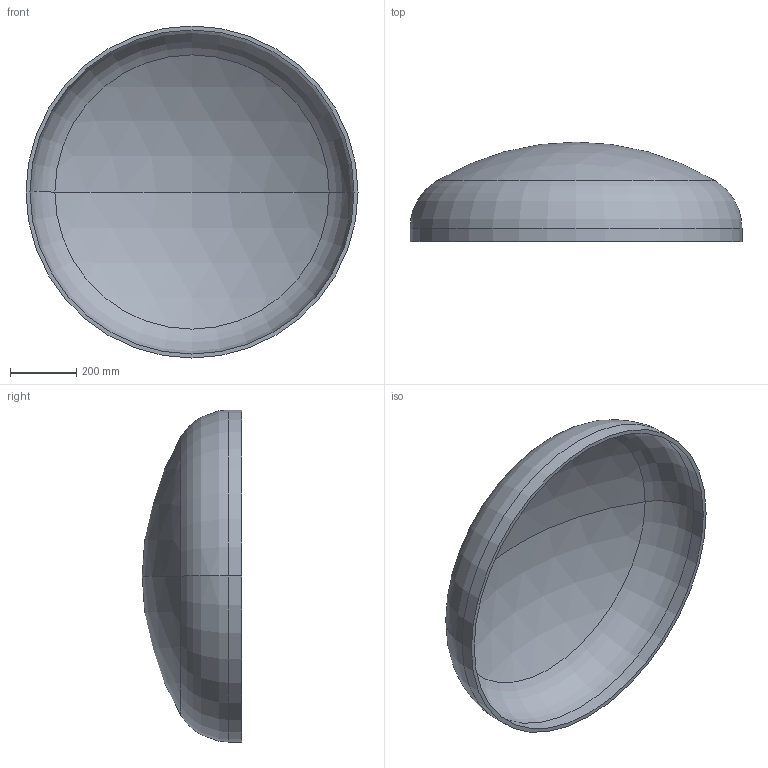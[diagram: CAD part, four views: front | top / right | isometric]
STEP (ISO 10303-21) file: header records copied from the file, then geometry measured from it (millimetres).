
FILE_DESCRIPTION (( 'STEP AP203' ), '1' );
FILE_NAME ('DIN 28013 Korbbogenform_-_Boden DIN 28013 - 1000 x 40 - I - s=12.step', '2016-07-01T08:42:30', ( '' ), ( '' ), 'SwSTEP 2.0', 'SolidWorks 2013', '' );
FILE_SCHEMA (( 'CONFIG_CONTROL_DESIGN' ));
Length unit declared in the file: millimetre
Products named in the file (1): DIN 28013 Korbbogenform_-_Boden DIN 28013 - 1000 x 40 - I - s=12
Bounding box: 1000 x 299.61 x 1000 mm (x, y, z)
Volume: 14353988.1 mm3; surface area: 2429878.8 mm2
Topology: 1 solids, 1 shells, 13 faces, 24 edges, 14 vertices
Faces by surface type: torus 4, cylinder 4, sphere 4, plane 1
Entity records: 407 total; most frequent: DIRECTION 72, CARTESIAN_POINT 52, ORIENTED_EDGE 48, AXIS2_PLACEMENT_3D 34, EDGE_CURVE 24, CIRCLE 20, VERTEX_POINT 14, EDGE_LOOP 14
